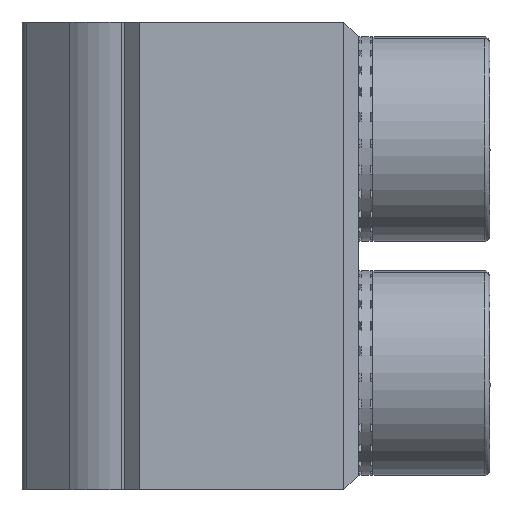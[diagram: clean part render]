
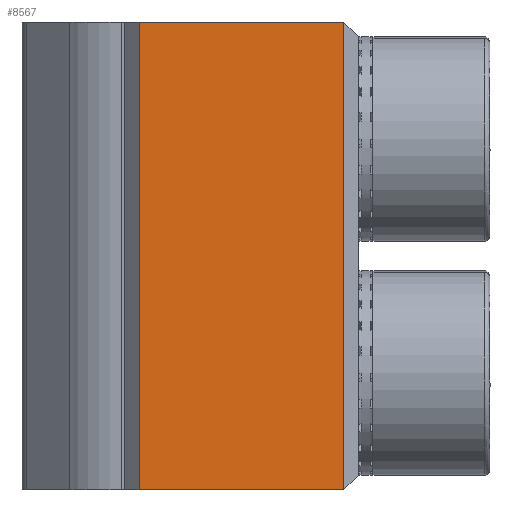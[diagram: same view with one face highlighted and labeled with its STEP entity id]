
A CAD part, front view. The second image highlights one B-rep face of the part: STEP entity #8567.
In plain terms, the highlighted planar face has unit normal (0, -1, 0).
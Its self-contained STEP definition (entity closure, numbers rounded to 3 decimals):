
#167 = CARTESIAN_POINT ( 'NONE',  ( -25., 15.566, 7.405 ) ) ;
#1329 = EDGE_LOOP ( 'NONE', ( #19692, #11517, #18568, #20826 ) ) ;
#1654 = EDGE_CURVE ( 'NONE', #23942, #13999, #13567, .T. ) ;
#1726 = VERTEX_POINT ( 'NONE', #23108 ) ;
#1836 = EDGE_CURVE ( 'NONE', #1726, #15901, #8087, .T. ) ;
#2411 = FACE_OUTER_BOUND ( 'NONE', #1329, .T. ) ;
#3037 = VECTOR ( 'NONE', #22826, 1000. ) ;
#3861 = CARTESIAN_POINT ( 'NONE',  ( -28.25, 15.566, -8.595 ) ) ;
#3888 = EDGE_CURVE ( 'NONE', #1726, #23942, #16645, .T. ) ;
#4100 = AXIS2_PLACEMENT_3D ( 'NONE', #3861, #17303, #5757 ) ;
#5757 = DIRECTION ( 'NONE',  ( 1., 0., 0. ) ) ;
#6028 = EDGE_CURVE ( 'NONE', #13999, #15901, #20112, .T. ) ;
#6111 = CARTESIAN_POINT ( 'NONE',  ( -28.25, 15.566, -8.595 ) ) ;
#8087 = LINE ( 'NONE', #21819, #3037 ) ;
#8567 = ADVANCED_FACE ( 'NONE', ( #2411 ), #15301, .T. ) ;
#10593 = CARTESIAN_POINT ( 'NONE',  ( -25., 15.566, -8.595 ) ) ;
#11517 = ORIENTED_EDGE ( 'NONE', *, *, #1654, .F. ) ;
#12527 = DIRECTION ( 'NONE',  ( -1., 0., 0. ) ) ;
#12891 = CARTESIAN_POINT ( 'NONE',  ( -21.25, 15.566, -8.595 ) ) ;
#13567 = LINE ( 'NONE', #13640, #18100 ) ;
#13640 = CARTESIAN_POINT ( 'NONE',  ( -21.25, 15.566, -0.595 ) ) ;
#13999 = VERTEX_POINT ( 'NONE', #12891 ) ;
#15301 = PLANE ( 'NONE',  #4100 ) ;
#15901 = VERTEX_POINT ( 'NONE', #6111 ) ;
#16041 = VECTOR ( 'NONE', #23099, 1000. ) ;
#16645 = LINE ( 'NONE', #167, #16041 ) ;
#17303 = DIRECTION ( 'NONE',  ( 0., -1., 0. ) ) ;
#17958 = DIRECTION ( 'NONE',  ( 0., 0., -1. ) ) ;
#18100 = VECTOR ( 'NONE', #17958, 1000. ) ;
#18568 = ORIENTED_EDGE ( 'NONE', *, *, #3888, .F. ) ;
#19503 = VECTOR ( 'NONE', #12527, 1000. ) ;
#19594 = CARTESIAN_POINT ( 'NONE',  ( -21.25, 15.566, 7.405 ) ) ;
#19692 = ORIENTED_EDGE ( 'NONE', *, *, #6028, .F. ) ;
#20112 = LINE ( 'NONE', #10593, #19503 ) ;
#20826 = ORIENTED_EDGE ( 'NONE', *, *, #1836, .T. ) ;
#21819 = CARTESIAN_POINT ( 'NONE',  ( -28.25, 15.566, -0.595 ) ) ;
#22826 = DIRECTION ( 'NONE',  ( 0., 0., -1. ) ) ;
#23099 = DIRECTION ( 'NONE',  ( 1., 0., 0. ) ) ;
#23108 = CARTESIAN_POINT ( 'NONE',  ( -28.25, 15.566, 7.405 ) ) ;
#23942 = VERTEX_POINT ( 'NONE', #19594 ) ;
